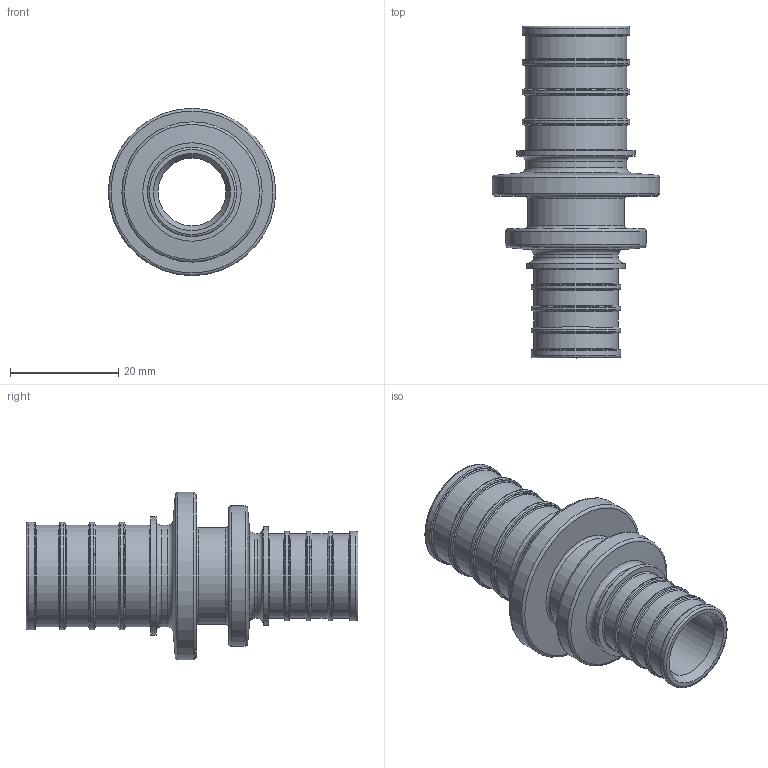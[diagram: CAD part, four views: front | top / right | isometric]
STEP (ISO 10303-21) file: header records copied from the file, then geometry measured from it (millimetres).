
FILE_DESCRIPTION(('STEP AP203'), '1');
FILE_NAME('ÂÐ.714651.004 - VTm.403.G.002520 Ôèò. íàäâ. ïð', '2024-01-23T11:05:42', ('IT'), ('VESTA'), 'C3D Converter', 'C3D Toolkit', '');
FILE_SCHEMA(('CONFIG_CONTROL_DESIGN'));
Length unit declared in the file: millimetre
Products named in the file (1): ВР.714651.004
Bounding box: 30.9 x 61.3 x 30.9 mm (x, y, z)
Volume: 9248 mm3; surface area: 8364.6 mm2
Topology: 1 solids, 1 shells, 87 faces, 159 edges, 87 vertices
Faces by surface type: torus 42, cylinder 25, plane 15, cone 5
Full cylindrical faces by diameter (mm): 12.5 x1, 15 x1, 15.7 x5, 16.5 x4, 17.9 x1, 18.2 x1, 18.8 x5, 19.8 x4, 21.8 x1, 25.9 x1, 30.9 x1
Entity records: 1779 total; most frequent: DIRECTION 350, CARTESIAN_POINT 262, AXIS2_PLACEMENT_3D 175, EDGE_LOOP 174, ORIENTED_EDGE 174, FACE_OUTER_BOUND 144, ADVANCED_FACE 87, EDGE_CURVE 87
